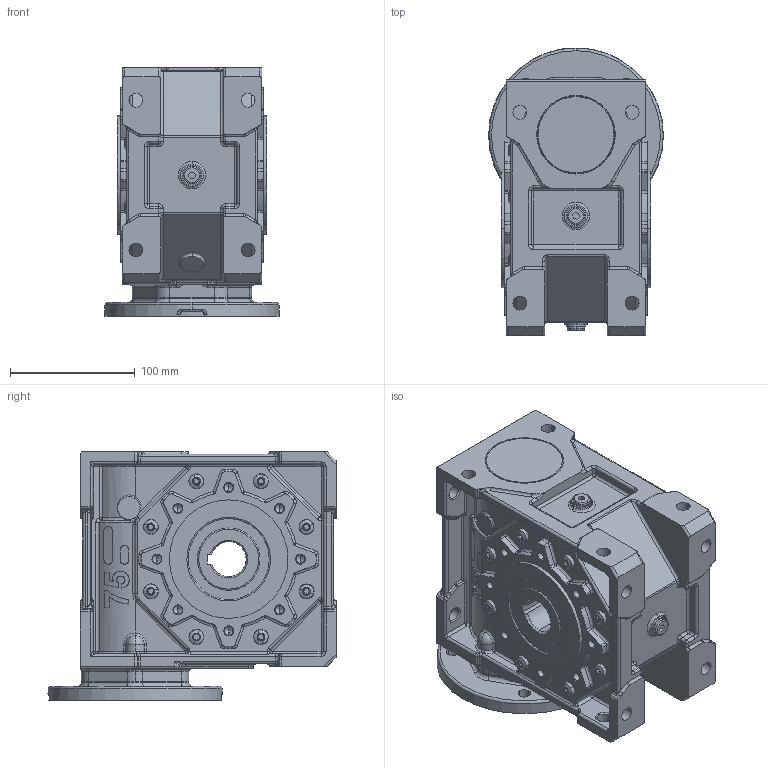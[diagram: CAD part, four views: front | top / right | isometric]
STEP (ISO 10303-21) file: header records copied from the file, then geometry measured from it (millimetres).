
FILE_DESCRIPTION (( 'STEP AP214' ), '1' );
FILE_NAME ('MKT75-FTRL-71-115.STEP', '2006-05-10T07:20:14', ( '' ), ( '' ), 'SwSTEP 2.0', 'SolidWorks 2004146', '' );
FILE_SCHEMA (( 'AUTOMOTIVE_DESIGN' ));
Length unit declared in the file: millimetre
Products named in the file (4): Skrin MKT75_MKT 75 AP71; D6912_Šroub DIN 6912 - M6x25; pøíruba115 d72 MRT80a_Výchozí; MKT75-FTRL-71-115
Assembly tree (8 placements, depth 2):
  MKT75-FTRL-71-115
    D6912_Šroub DIN 6912 - M6x25  x6
    pøíruba115 d72 MRT80a_Výchozí
    Skrin MKT75_MKT 75 AP71
Bounding box: 140 x 230.81 x 199 mm (x, y, z)
Volume: 3270142.2 mm3; surface area: 275210.1 mm2
Topology: 8 solids, 8 shells, 2352 faces, 5614 edges, 3212 vertices
Faces by surface type: cylinder 873, torus 466, plane 435, bspline 218, cone 199, sphere 161
Entity records: 176935 total; most frequent: CARTESIAN_POINT 123307, DIRECTION 11231, ORIENTED_EDGE 10188, EDGE_CURVE 5094, AXIS2_PLACEMENT_3D 4751, VERTEX_POINT 3027, CIRCLE 2791, EDGE_LOOP 2313
